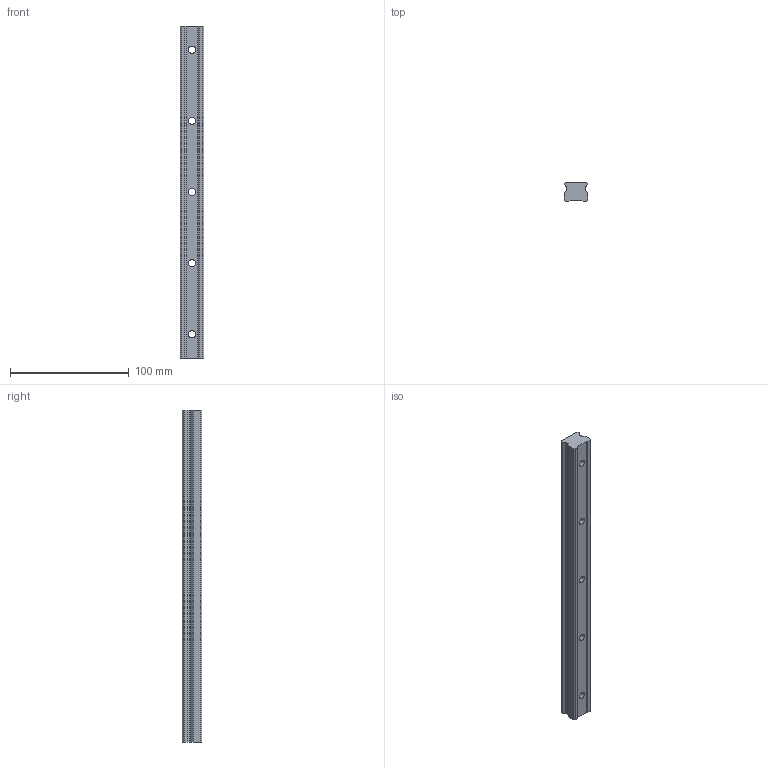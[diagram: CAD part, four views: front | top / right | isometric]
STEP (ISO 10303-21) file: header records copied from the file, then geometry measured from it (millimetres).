
FILE_DESCRIPTION (( 'STEP AP203' ), '1' );
FILE_NAME ('L1016.BL20-0280.step', '2019-06-12T11:45:56', ( '' ), ( '' ), 'SwSTEP 2.0', 'SolidWorks 2017', '' );
FILE_SCHEMA (( 'CONFIG_CONTROL_DESIGN' ));
Length unit declared in the file: millimetre
Products named in the file (1): L1016.BL20-0280
Bounding box: 20 x 16.3 x 280 mm (x, y, z)
Volume: 77592.5 mm3; surface area: 23147.3 mm2
Topology: 1 solids, 1 shells, 51 faces, 132 edges, 88 vertices
Faces by surface type: plane 27, cylinder 24
Entity records: 1671 total; most frequent: DIRECTION 284, CARTESIAN_POINT 272, ORIENTED_EDGE 264, EDGE_CURVE 132, AXIS2_PLACEMENT_3D 100, VERTEX_POINT 88, VECTOR 84, LINE 84
